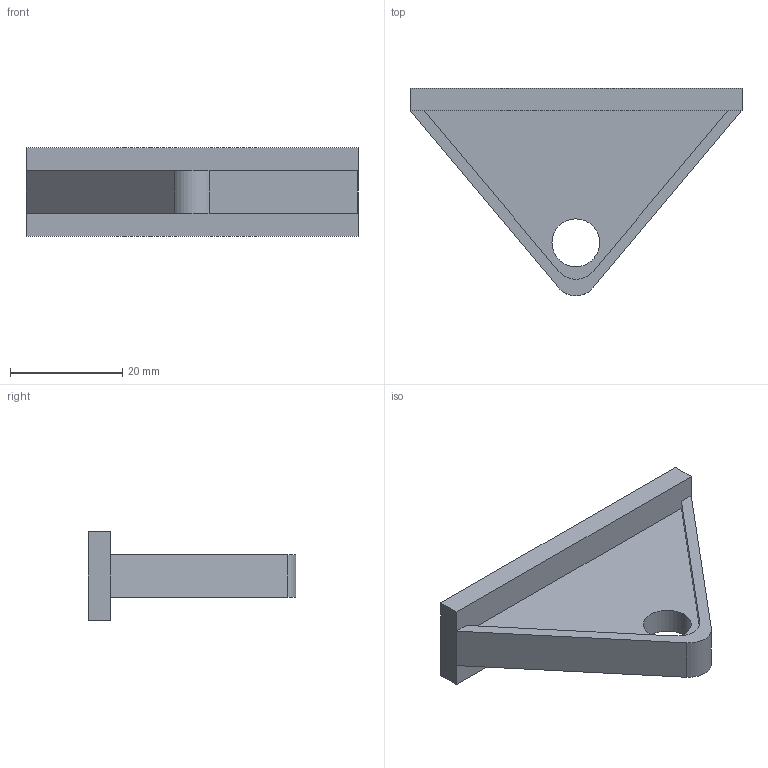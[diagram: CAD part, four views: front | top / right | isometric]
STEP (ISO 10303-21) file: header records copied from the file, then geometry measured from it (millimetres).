
FILE_DESCRIPTION (( 'STEP AP203' ), '1' );
FILE_NAME ('3002.STEP', '2016-04-25T09:06:18', ( 'RosInstal-MKM' ), ( '' ), 'SwSTEP 2.0', 'SolidWorks 2014', '' );
FILE_SCHEMA (( 'CONFIG_CONTROL_DESIGN' ));
Length unit declared in the file: millimetre
Products named in the file (1): 3002
Bounding box: 59.04 x 36.94 x 15.8 mm (x, y, z)
Volume: 8622.7 mm3; surface area: 5169.5 mm2
Topology: 1 solids, 1 shells, 21 faces, 55 edges, 36 vertices
Faces by surface type: plane 16, cylinder 5
Entity records: 724 total; most frequent: CARTESIAN_POINT 113, ORIENTED_EDGE 110, DIRECTION 109, EDGE_CURVE 55, VECTOR 45, LINE 45, VERTEX_POINT 36, AXIS2_PLACEMENT_3D 32
